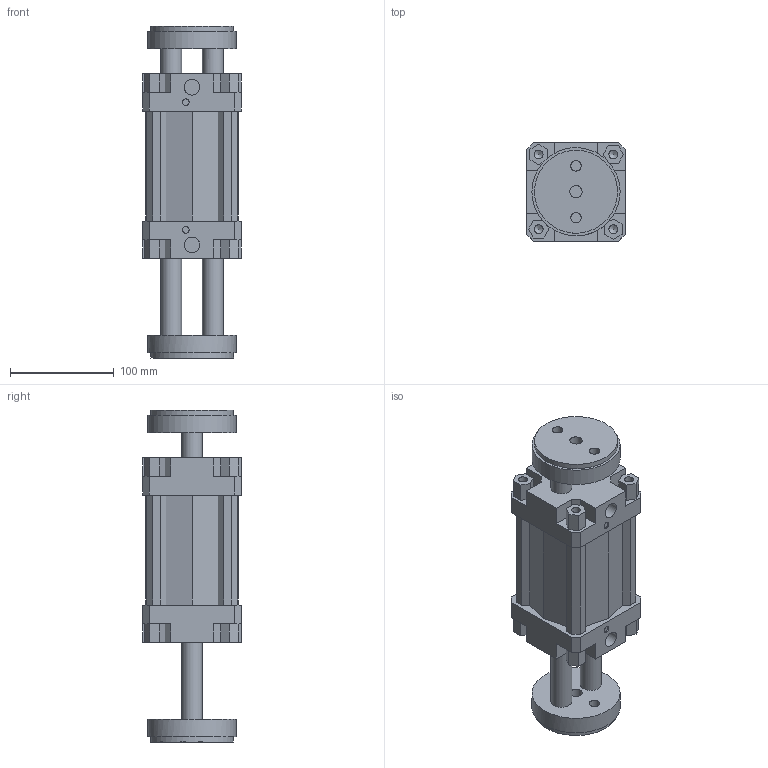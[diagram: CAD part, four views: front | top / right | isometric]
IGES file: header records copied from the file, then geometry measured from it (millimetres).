
Global section: file name: 132#_080_0050_06; native system: Autodesk Inventor 2014; preprocessor: unknown; author: A. Manieri; date: 20161006.162319; units: millimetre
Bounding box: 95 x 95 x 320 mm (x, y, z)
Volume: 1370234.5 mm3; surface area: 231680.1 mm2
Topology: 2 solids, 2 shells, 190 faces, 518 edges, 354 vertices
Faces by surface type: bspline 190
